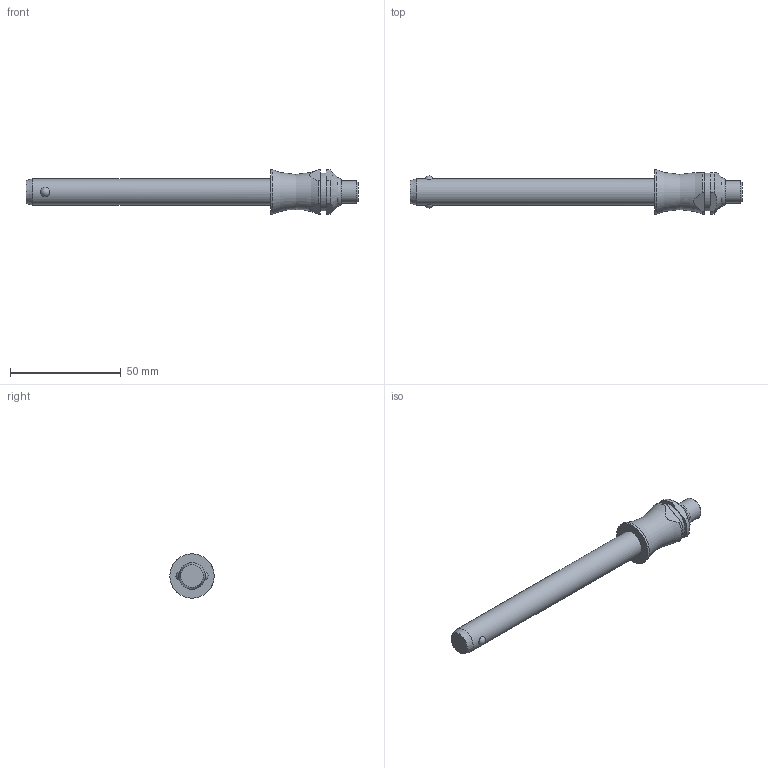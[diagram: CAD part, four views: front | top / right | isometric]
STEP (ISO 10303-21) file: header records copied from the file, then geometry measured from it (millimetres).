
FILE_DESCRIPTION( ( 'STEP AP203' ), '1' );
FILE_NAME( 'C:/Temp/Ganter_Step_05_03_2020/data/3_1/gn113_3/Stainless Steel-Ball lock pin GN 113.3-12-100 (deactivated).stp', '2020-03-12T08:18:48', ( 'License CC BY-ND 4.0' ), ( 'CADENAS' ), ' ', 'PARTsolutions', ' ' );
FILE_SCHEMA( ( 'CONFIG_CONTROL_DESIGN' ) );
Length unit declared in the file: millimetre
Products named in the file (1): _Stainless Steel-Ball lock pin GN 113.3-12-100 (deactivated)
Bounding box: 150.1 x 20 x 20 mm (x, y, z)
Volume: 20447.3 mm3; surface area: 6731.8 mm2
Topology: 1 solids, 1 shells, 28 faces, 60 edges, 39 vertices
Faces by surface type: plane 11, cylinder 10, cone 3, torus 2, sphere 2
Full cylindrical faces by diameter (mm): 10 x1, 12 x1, 17 x1, 20 x1
Entity records: 954 total; most frequent: CARTESIAN_POINT 338, DIRECTION 122, ORIENTED_EDGE 98, AXIS2_PLACEMENT_3D 52, EDGE_CURVE 49, EDGE_LOOP 42, VERTEX_POINT 38, FACE_OUTER_BOUND 34
